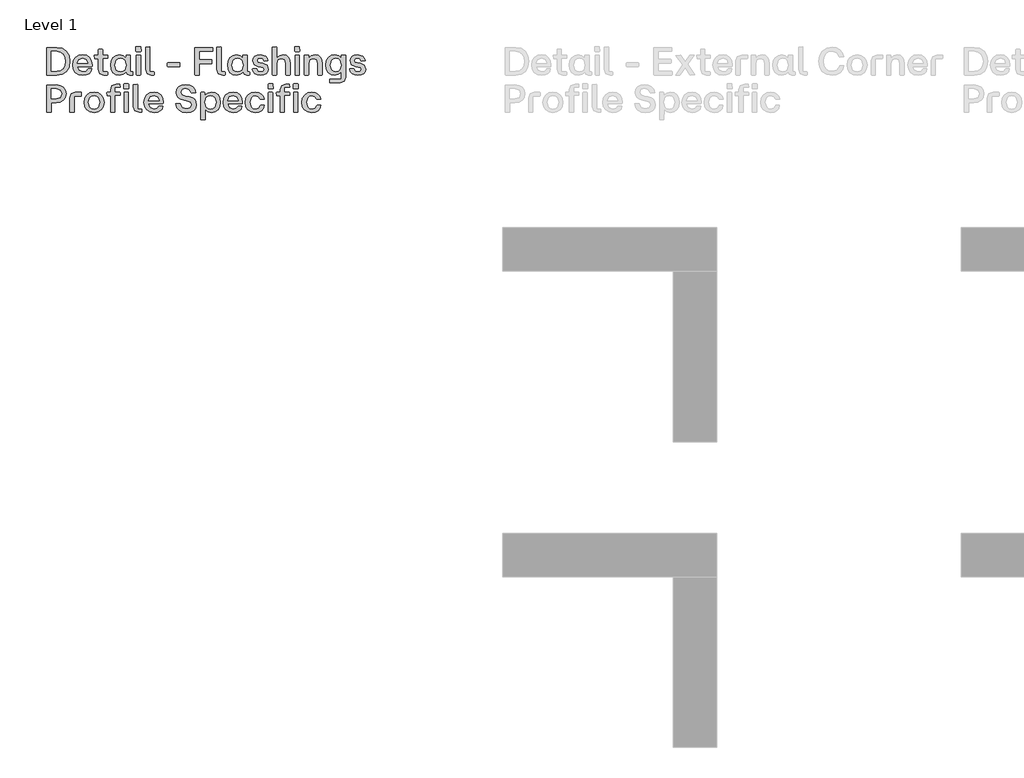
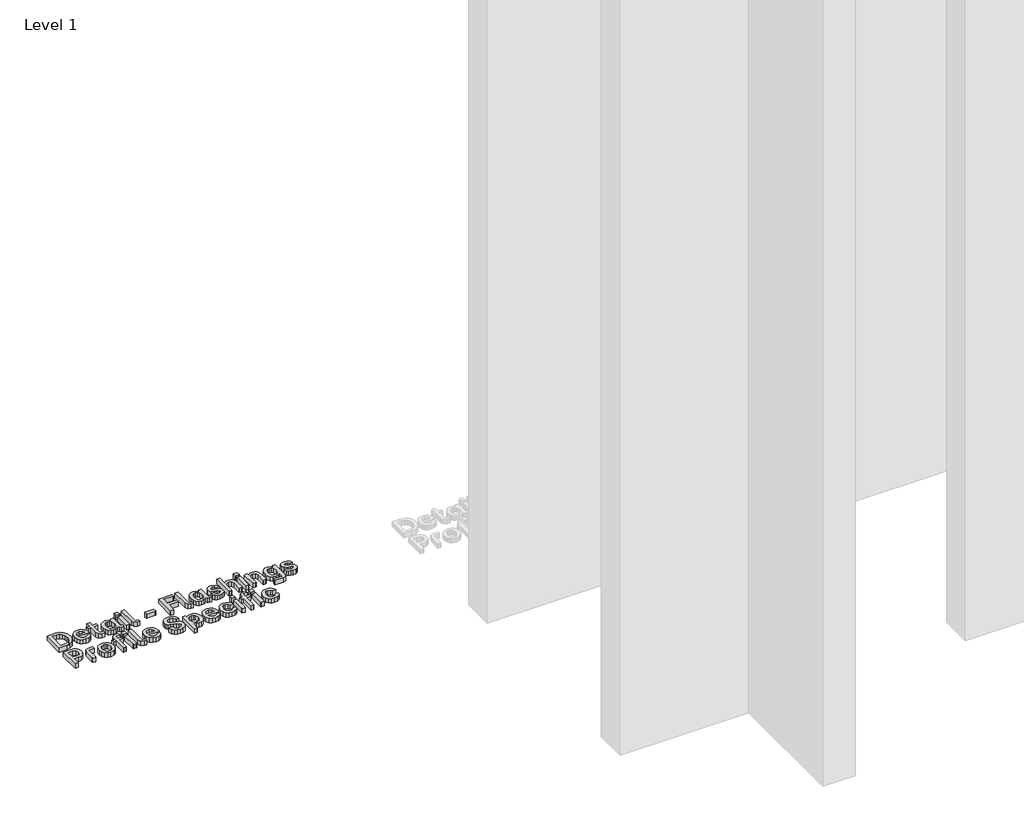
# One storey, part 56 of 64: 1 proxy.
"""IFC4 building model written with IfcOpenShell, lengths in millimetres."""

import ifcopenshell
import ifcopenshell.guid

model = None  # the IFC model being written
_history = None  # IfcOwnerHistory: only IFC2X3 demands one
_inside = {}  # id of a spatial element -> (the spatial element, [elements in it])
_under = {}  # id of a project, library or spatial element -> (it, [spatial elements below it])
_declared = {}  # id of a project -> (the project, [libraries it declares])
_typed = {}  # id of a type object -> (the type object, [elements of that type])
_made_of = {}  # id of a material, layer set ... -> (it, [elements and type objects made of it])


def new_model(schema):
    """Start an empty IFC model of exactly this schema.

    Asked for "IFC4X3", IfcOpenShell would pick the latest addendum, in which some entities
    have other attributes; the version numbers below select the first issue.
    IFC2X3 requires an IfcOwnerHistory on every rooted entity: one is made here for all.
    """
    global model, _history
    if schema == "IFC4X3":
        model = ifcopenshell.file(schema_version=(4, 3, 0, 0))
    else:
        model = ifcopenshell.file(schema=schema)
    _inside.clear()
    _under.clear()
    _declared.clear()
    _typed.clear()
    _made_of.clear()
    _history = None
    if model.schema == "IFC2X3":
        org = make("IfcOrganization", Name="unknown")
        user = make(
            "IfcPersonAndOrganization",
            ThePerson=make("IfcPerson", FamilyName="unknown"),
            TheOrganization=org,
        )
        app = make(
            "IfcApplication",
            ApplicationDeveloper=org,
            Version="unknown",
            ApplicationFullName="unknown",
            ApplicationIdentifier="unknown",
        )
        _history = make(
            "IfcOwnerHistory",
            OwningUser=user,
            OwningApplication=app,
            ChangeAction="ADDED",
            CreationDate=0,
        )
    return model


def make(cls, **values):
    """One entity of the class cls with the attributes given. An attribute that is None is left unset."""
    return model.create_entity(
        cls, **{name: value for name, value in values.items() if value is not None}
    )


def rooted(cls, **values):
    """An entity with a GlobalId (a new one), such as an element, a storey or a relation."""
    return make(cls, GlobalId=ifcopenshell.guid.new(), OwnerHistory=_history, **values)


def si_unit(unit_type, name, prefix=None):
    """IfcSIUnit, for example si_unit("LENGTHUNIT", "METRE", prefix="MILLI")."""
    return make("IfcSIUnit", UnitType=unit_type, Prefix=prefix, Name=name)


def assignment(units):
    """IfcUnitAssignment: the units of a project."""
    return None if units is None else make("IfcUnitAssignment", Units=units)


def point(xyz):
    """IfcCartesianPoint."""
    return None if xyz is None else make("IfcCartesianPoint", Coordinates=xyz)


def direction(xyz):
    """IfcDirection."""
    return None if xyz is None else make("IfcDirection", DirectionRatios=xyz)


def frame(location, z_axis=None, x_axis=None):
    """IfcAxis2Placement3D, a coordinate frame: its origin and axes. An axis left out is left unset."""
    return make(
        "IfcAxis2Placement3D",
        Location=point(location),
        Axis=direction(z_axis),
        RefDirection=direction(x_axis),
    )


def origin():
    """The frame at (0, 0, 0) with its axes left unset."""
    return frame((0.0, 0.0, 0.0))


def origin_with_axes():
    """The frame at (0, 0, 0) with the z axis (0, 0, 1) and the x axis (1, 0, 0) written out."""
    return frame((0.0, 0.0, 0.0), z_axis=(0.0, 0.0, 1.0), x_axis=(1.0, 0.0, 0.0))


def place(relative_to, where):
    """IfcLocalPlacement: puts the frame where relative to a parent placement (None: the world)."""
    return make(
        "IfcLocalPlacement", PlacementRelTo=relative_to, RelativePlacement=where
    )


def context(
    kind, dimensions, precision=None, world=None, true_north=None, identifier=None
):
    """IfcGeometricRepresentationContext, for example the 3D "Model" context."""
    return make(
        "IfcGeometricRepresentationContext",
        ContextIdentifier=identifier,
        ContextType=kind,
        CoordinateSpaceDimension=dimensions,
        Precision=precision,
        WorldCoordinateSystem=world,
        TrueNorth=true_north,
    )


def project(units=None, contexts=None):
    """IfcProject with its units and contexts."""
    return rooted(
        "IfcProject",
        Name="project",
        RepresentationContexts=contexts,
        UnitsInContext=assignment(units),
    )


def spatial(cls, under=None, at=None, **own):
    """A site, building, storey or space (cls), placed at a placement, below another one or the project."""
    s = rooted(cls, ObjectPlacement=at, **own)
    if under is not None:
        _under.setdefault(under.id(), (under, []))[1].append(s)
    return s


def polyline(points):
    """IfcPolyline through the points."""
    return make("IfcPolyline", Points=[point(p) for p in points])


def outline(outer, holes=None, kind="AREA"):
    """IfcArbitraryClosedProfileDef: a profile drawn as a closed curve; with holes, ...WithVoids."""
    if holes is None:
        return make("IfcArbitraryClosedProfileDef", ProfileType=kind, OuterCurve=outer)
    return make(
        "IfcArbitraryProfileDefWithVoids",
        ProfileType=kind,
        OuterCurve=outer,
        InnerCurves=holes,
    )


def extrude(swept, where, along, depth):
    """IfcExtrudedAreaSolid: the profile swept, set in the frame where, extruded along a direction by depth."""
    return make(
        "IfcExtrudedAreaSolid",
        SweptArea=swept,
        Position=where,
        ExtrudedDirection=direction(along),
        Depth=depth,
    )


def shape(context_of_items, identifier, shape_type, items):
    """IfcShapeRepresentation: the items that make up one representation, for example the "Body"."""
    return make(
        "IfcShapeRepresentation",
        ContextOfItems=context_of_items,
        RepresentationIdentifier=identifier,
        RepresentationType=shape_type,
        Items=items,
    )


def made_of(thing, what):
    """Note that an element or type object is made of a material, layer set ...; save() writes the relation."""
    if what is not None:
        _made_of.setdefault(what.id(), (what, []))[1].append(thing)
    return thing


def element(
    cls,
    number,
    at=None,
    inside=None,
    cuts=None,
    type_object=None,
    material=None,
    context=None,
    identifier="Body",
    shape_type=None,
    held_by="IfcProductDefinitionShape",
    body=None,
    shapes=None,
    **own,
):
    """One element of the class cls, such as IfcWall. Its Tag is "e" and its number.

    at: its placement. inside: the storey or other place that contains it. cuts: it is an
    opening in that element (IfcRelVoidsElement). A single representation is given by context,
    identifier, shape_type and body (its items); several are given by shapes. held_by: the class
    of the entity that holds the representations. save() writes the other relations.
    """
    e = rooted(cls, Tag="e%d" % number, ObjectPlacement=at, **own)
    if body is not None:
        shapes = [shape(context, identifier, shape_type, body)]
    if shapes is not None:
        e.Representation = make(held_by, Representations=shapes)
    if inside is not None:
        _inside.setdefault(inside.id(), (inside, []))[1].append(e)
    if cuts is not None:
        rooted(
            "IfcRelVoidsElement", RelatingBuildingElement=cuts, RelatedOpeningElement=e
        )
    if type_object is not None:
        _typed.setdefault(type_object.id(), (type_object, []))[1].append(e)
    return made_of(e, material)


def aggregate(whole, parts):
    """IfcRelAggregates: a whole, such as a stair, and the parts it consists of."""
    return rooted("IfcRelAggregates", RelatingObject=whole, RelatedObjects=parts)


def save(model, path):
    """Write the relations noted so far, then the file.

    IfcRelAggregates (storeys below a building ...), IfcRelContainedInSpatialStructure (elements
    in a storey), IfcRelDefinesByType, IfcRelAssociatesMaterial and IfcRelDeclares: one each for
    every whole, place, type object, material and project.
    """
    for whole, parts in _under.values():
        aggregate(whole, parts)
    for where, things in _inside.values():
        rooted(
            "IfcRelContainedInSpatialStructure",
            RelatedElements=things,
            RelatingStructure=where,
        )
    for kind, things in _typed.values():
        rooted("IfcRelDefinesByType", RelatedObjects=things, RelatingType=kind)
    for what, things in _made_of.values():
        rooted("IfcRelAssociatesMaterial", RelatedObjects=things, RelatingMaterial=what)
    for by, libraries in _declared.values():
        rooted("IfcRelDeclares", RelatingContext=by, RelatedDefinitions=libraries)
    model.write(path)


model = new_model("IFC4")

# Units and contexts
model_context = context("Model", 3, world=origin())
ifc_project = project(units=[si_unit("LENGTHUNIT", "METRE", prefix="MILLI")], contexts=[model_context])

# Site, building, storey
site = spatial("IfcSite", under=ifc_project)
building = spatial("IfcBuilding", under=site)
storey = spatial("IfcBuildingStorey", under=building, Name="Level 1", Elevation=0.0)

# Proxy
placement = place(None, origin())
element("IfcBuildingElementProxy", 1, Name="90mm", ObjectType="90mm", at=placement, inside=storey, context=model_context, shape_type="SweptSolid", body=[
    extrude(outline(polyline([(7610.2926176, 6000.0), (7608.9872124, 6001.2551973), (7608.9872124, 6088.6922388), (7642.5511873, 6089.997644), (7660.5475781, 6086.9945845), (7674.1193986, 6077.9854062), (7682.63905, 6063.6416394), (7685.4789338, 6044.6348148), (7682.648464, 6025.7974418), (7674.1570545, 6011.7109905), (7660.594648, 6002.9277476), (7642.5511873, 6000.0), (7610.2926176, 6000.0)]), holes=[polyline([(7623.7985402, 6012.6272845), (7641.6725492, 6012.6272845), (7653.8950326, 6014.688946), (7662.9481429, 6020.8739305), (7668.5494607, 6030.9374746), (7670.4165666, 6044.6348148), (7668.5431847, 6058.4890546), (7662.923039, 6068.8224661), (7653.8636527, 6075.2522141), (7641.6725492, 6077.3954634), (7623.7985402, 6077.3954634), (7623.7985402, 6012.6272845)])]), origin_with_axes(), (0.0, 0.0, 1.0), 20.0),
    extrude(outline(polyline([(7727.628458, 5999.2468816), (7714.0409476, 6001.5156507), (7703.5035666, 6008.3219579), (7696.7443293, 6018.9377888), (7694.4912502, 6032.6351289), (7696.7349153, 6046.4987827), (7703.4659107, 6057.2118914), (7713.9938777, 6064.0652685), (7727.628458, 6066.3497275), (7740.1584647, 6064.0966484), (7749.7324819, 6057.3374111), (7755.8044987, 6046.6870623), (7757.8285043, 6032.7606486), (7757.8285043, 6029.3214081), (7756.573307, 6027.990899), (7709.1268503, 6027.990899), (7714.6497183, 6015.3134066), (7727.628458, 6010.7946965), (7738.0465953, 6013.0917075), (7743.4439436, 6019.5308695), (7744.8246606, 6020.5852352), (7756.1967478, 6020.5852352), (7754.1633282, 6011.2685335), (7747.8120301, 6004.8074055), (7738.8248176, 6000.6370126), (7727.628458, 5999.2468816)]), holes=[polyline([(7709.2523701, 6038.4090363), (7743.8205028, 6038.4090363), (7739.0633051, 6050.3710663), (7727.628458, 6054.7266008), (7714.8631018, 6050.5844498), (7709.2523701, 6038.4090363)])]), origin_with_axes(), (0.0, 0.0, 1.0), 20.0),
    extrude(outline(polyline([(7796.6140998, 6000.0), (7782.731618, 6004.7697496), (7777.9618684, 6018.6522314), (7777.9618684, 6054.2245219), (7766.7906127, 6054.2245219), (7765.4852076, 6064.2661), (7766.7906127, 6065.5212973), (7777.9618684, 6065.5212973), (7777.9618684, 6083.54593), (7779.2170657, 6084.8513352), (7790.9657121, 6084.8513352), (7792.2209094, 6083.54593), (7792.2209094, 6065.5212973), (7808.0363949, 6065.5212973), (7809.3418001, 6064.2661), (7809.3418001, 6055.555031), (7792.2209094, 6054.2245219), (7792.2209094, 6011.2967754), (7808.0363949, 6011.2967754), (7809.3418001, 6010.0415781), (7809.3418001, 6001.2551973), (7808.0363949, 6000.0), (7796.6140998, 6000.0)])), origin_with_axes(), (0.0, 0.0, 1.0), 20.0),
    extrude(outline(polyline([(7847.2738615, 5999.2468816), (7835.3243835, 6001.5156507), (7826.0861316, 6008.3219579), (7820.1741525, 6018.9377888), (7818.2034928, 6032.6351289), (7820.1741525, 6046.4674028), (7826.0861316, 6057.1867875), (7835.3243835, 6064.0589925), (7847.2738615, 6066.3497275), (7859.1856835, 6063.4627738), (7868.160344, 6055.555031), (7868.7377347, 6064.2661), (7869.992932, 6065.5212973), (7881.6662665, 6065.5212973), (7882.9716717, 6064.2661), (7882.9716717, 6011.2967754), (7890.0760882, 6011.2967754), (7891.3312855, 6010.0415781), (7891.3312855, 6001.2551973), (7890.0760882, 6000.0), (7880.536589, 6000.0), (7872.1581473, 6002.3534949), (7869.3653333, 6009.4139795), (7859.7254183, 6002.1338354), (7847.2738615, 5999.2468816)]), holes=[polyline([(7832.7135732, 6032.6351289), (7837.6716024, 6016.6313638), (7843.5365116, 6012.2538633), (7851.2151809, 6010.7946965), (7858.7714684, 6012.2475873), (7864.470064, 6016.6062598), (7869.2398136, 6032.6351289), (7864.4324081, 6048.8271737), (7858.7243985, 6053.251744), (7851.2151809, 6054.7266008), (7843.5365116, 6053.251744), (7837.6716024, 6048.8271737), (7832.7135732, 6032.6351289)])]), origin_with_axes(), (0.0, 0.0, 1.0), 20.0),
    extrude(outline(polyline([(7903.6824266, 6000.0), (7902.3770214, 6001.2551973), (7902.3770214, 6064.2661), (7903.6824266, 6065.5212973), (7915.3557612, 6065.5212973), (7916.6109584, 6064.2661), (7916.6109584, 6001.2551973), (7915.3557612, 6000.0), (7903.6824266, 6000.0)])), origin_with_axes(), (0.0, 0.0, 1.0), 20.0),
    extrude(outline(polyline([(7901.3728636, 6078.1485818), (7901.3728636, 6092.0059596), (7902.6280609, 6093.3364687), (7916.4854387, 6093.3364687), (7917.8159478, 6078.1485818), (7916.4854387, 6076.8933845), (7902.6280609, 6076.8933845), (7901.3728636, 6078.1485818)])), origin_with_axes(), (0.0, 0.0, 1.0), 20.0),
    extrude(outline(polyline([(7951.5305464, 6000.0), (7937.6731686, 6004.7697496), (7932.903419, 6018.6522314), (7932.903419, 6091.2528413), (7945.8821587, 6092.5833504), (7947.137356, 6091.2528413), (7947.137356, 6011.2967754), (7959.1370418, 6011.2967754), (7960.3922391, 6010.0415781), (7960.3922391, 6001.2551973), (7959.1370418, 6000.0), (7951.5305464, 6000.0)])), origin_with_axes(), (0.0, 0.0, 1.0), 20.0),
    extrude(outline(polyline([(8005.1776775, 6027.112261), (8003.9224803, 6028.4427701), (8003.9224803, 6038.4090363), (8005.1776775, 6039.7395454), (8043.7875455, 6039.7395454), (8045.0427427, 6038.4090363), (8045.0427427, 6028.4427701), (8043.7875455, 6027.112261), (8005.1776775, 6027.112261)])), origin_with_axes(), (0.0, 0.0, 1.0), 20.0),
    extrude(outline(polyline([(8095.5016728, 6000.0), (8094.1962677, 6001.2551973), (8094.1962677, 6088.6922388), (8151.0567038, 6089.997644), (8152.3119011, 6088.6922388), (8152.3119011, 6078.6506607), (8151.0567038, 6077.3954634), (8109.0075954, 6077.3954634), (8109.0075954, 6050.2832025), (8148.4709975, 6050.2832025), (8149.7261947, 6048.9526934), (8149.7261947, 6038.9864271), (8148.4709975, 6037.655918), (8109.0075954, 6037.655918), (8109.0075954, 6001.2551973), (8107.6770863, 6000.0), (8095.5016728, 6000.0)])), origin_with_axes(), (0.0, 0.0, 1.0), 20.0),
    extrude(outline(polyline([(8184.495159, 6000.0), (8170.6377812, 6004.7697496), (8165.8680316, 6018.6522314), (8165.8680316, 6091.2528413), (8178.8467713, 6092.5833504), (8180.1019686, 6091.2528413), (8180.1019686, 6011.2967754), (8192.1016544, 6011.2967754), (8193.3568517, 6010.0415781), (8193.3568517, 6001.2551973), (8192.1016544, 6000.0), (8184.495159, 6000.0)])), origin_with_axes(), (0.0, 0.0, 1.0), 20.0),
    extrude(outline(polyline([(8229.6571566, 5999.2468816), (8217.7076787, 6001.5156507), (8208.4694268, 6008.3219579), (8202.5574477, 6018.9377888), (8200.586788, 6032.6351289), (8202.5574477, 6046.4674028), (8208.4694268, 6057.1867875), (8217.7076787, 6064.0589925), (8229.6571566, 6066.3497275), (8241.5689787, 6063.4627738), (8250.5436392, 6055.555031), (8251.1210299, 6064.2661), (8252.3762272, 6065.5212973), (8264.0495617, 6065.5212973), (8265.3549669, 6064.2661), (8265.3549669, 6011.2967754), (8272.4593834, 6011.2967754), (8273.7145807, 6010.0415781), (8273.7145807, 6001.2551973), (8272.4593834, 6000.0), (8262.9198842, 6000.0), (8254.5414425, 6002.3534949), (8251.7486285, 6009.4139795), (8242.1087135, 6002.1338354), (8229.6571566, 5999.2468816)]), holes=[polyline([(8215.0968684, 6032.6351289), (8220.0548976, 6016.6313638), (8225.9198068, 6012.2538633), (8233.5984761, 6010.7946965), (8241.1547636, 6012.2475873), (8246.8533592, 6016.6062598), (8251.6231088, 6032.6351289), (8246.8157033, 6048.8271737), (8241.1076937, 6053.251744), (8233.5984761, 6054.7266008), (8225.9198068, 6053.251744), (8220.0548976, 6048.8271737), (8215.0968684, 6032.6351289)])]), origin_with_axes(), (0.0, 0.0, 1.0), 20.0),
    extrude(outline(polyline([(8309.0358318, 5999.2468816), (8298.0936496, 6000.5742527), (8289.7183458, 6004.5563661), (8284.1609599, 6011.017494), (8281.6725314, 6019.7819089), (8282.8022089, 6021.2128338), (8294.1742961, 6021.2128338), (8295.4294934, 6020.0329484), (8299.7222681, 6012.5519727), (8309.0358318, 6010.2926176), (8317.0690943, 6012.4264529), (8320.0815677, 6018.1501525), (8317.9226284, 6023.2964613), (8310.6173803, 6025.9825834), (8301.4544403, 6027.6143399), (8287.5468546, 6033.990742), (8283.0532484, 6046.7686501), (8284.7006948, 6054.7862227), (8289.643034, 6061.0151391), (8297.3781872, 6065.0160804), (8307.4040753, 6066.3497275), (8324.8513173, 6061.3916983), (8330.0164541, 6055.3949934), (8332.4578128, 6047.3209369), (8319.956048, 6045.8900121), (8318.575331, 6047.0698975), (8315.0105708, 6053.3835397), (8307.4040753, 6055.3039916), (8299.747372, 6053.3207799), (8297.1114577, 6047.5719764), (8298.9942536, 6042.5888432), (8305.8476307, 6039.8650652), (8315.6381694, 6038.0324772), (8330.060386, 6031.7564908), (8334.1397771, 6018.9032708), (8332.5080206, 6010.5154151), (8327.6127513, 6004.3304306), (8319.7050085, 6000.5177689), (8309.0358318, 5999.2468816)])), origin_with_axes(), (0.0, 0.0, 1.0), 20.0),
    extrude(outline(polyline([(8348.7251693, 6000.0), (8347.4197642, 6001.2551973), (8347.4197642, 6091.2528413), (8360.3985039, 6092.5833504), (8361.6537012, 6091.2528413), (8361.6537012, 6056.0571099), (8370.8103652, 6063.7765731), (8382.2389363, 6066.3497275), (8392.1644087, 6064.4669316), (8399.4476909, 6058.8185439), (8403.9193311, 6049.5426361), (8405.4098779, 6036.7772799), (8405.4098779, 6001.2551973), (8404.0793688, 6000.0), (8392.4060342, 6000.0), (8391.100629, 6001.2551973), (8391.100629, 6036.7772799), (8387.5860767, 6050.057267), (8376.4775809, 6054.2245219), (8365.2686693, 6049.9945071), (8361.6537012, 6036.7772799), (8361.6537012, 6001.2551973), (8360.3985039, 6000.0), (8348.7251693, 6000.0)])), origin_with_axes(), (0.0, 0.0, 1.0), 20.0),
    extrude(outline(polyline([(8422.6311844, 6000.0), (8421.3257792, 6001.2551973), (8421.3257792, 6064.2661), (8422.6311844, 6065.5212973), (8434.3045189, 6065.5212973), (8435.5597162, 6064.2661), (8435.5597162, 6001.2551973), (8434.3045189, 6000.0), (8422.6311844, 6000.0)])), origin_with_axes(), (0.0, 0.0, 1.0), 20.0),
    extrude(outline(polyline([(8420.3216214, 6078.1485818), (8420.3216214, 6092.0059596), (8421.5768187, 6093.3364687), (8435.4341965, 6093.3364687), (8436.7647056, 6078.1485818), (8435.4341965, 6076.8933845), (8421.5768187, 6076.8933845), (8420.3216214, 6078.1485818)])), origin_with_axes(), (0.0, 0.0, 1.0), 20.0),
    extrude(outline(polyline([(8453.1575819, 6000.0), (8451.8521767, 6001.2551973), (8451.8521767, 6064.2661), (8453.1575819, 6065.5212973), (8464.2033178, 6065.5212973), (8465.4585151, 6064.2661), (8465.4585151, 6055.555031), (8474.7532508, 6063.6510534), (8486.6713489, 6066.3497275), (8496.5968213, 6064.4669316), (8503.8801034, 6058.8185439), (8508.3517437, 6049.5426361), (8509.8422904, 6036.7772799), (8509.8422904, 6001.2551973), (8508.5117813, 6000.0), (8496.8384467, 6000.0), (8495.5330416, 6001.2551973), (8495.5330416, 6036.7772799), (8492.0184892, 6050.057267), (8480.9099934, 6054.2245219), (8469.7010818, 6049.9945071), (8466.0861137, 6036.7772799), (8466.0861137, 6001.2551973), (8464.8309165, 6000.0), (8453.1575819, 6000.0)])), origin_with_axes(), (0.0, 0.0, 1.0), 20.0),
    extrude(outline(polyline([(8535.5487304, 5975.5989651), (8534.2182213, 5976.8541624), (8534.2182213, 5985.6405433), (8535.5487304, 5986.8957405), (8572.4515301, 5986.8957405), (8572.4515301, 6010.0415781), (8562.8994789, 6002.1338354), (8550.9876568, 5999.2468816), (8539.0381788, 6001.5313407), (8529.799927, 6008.3847177), (8523.8879478, 6019.0789984), (8521.9172881, 6032.8861684), (8523.8879478, 6046.6086125), (8529.799927, 6057.2495473), (8539.0381788, 6064.0746824), (8550.9876568, 6066.3497275), (8563.4392137, 6063.4627738), (8572.5770498, 6055.6805507), (8573.0791287, 6064.2661), (8574.334326, 6065.5212973), (8585.3800619, 6065.5212973), (8586.6854671, 6064.2661), (8586.6854671, 5993.5984939), (8582.0412372, 5980.2055391), (8568.6859383, 5975.5989651), (8535.5487304, 5975.5989651)]), holes=[polyline([(8536.4273685, 6032.8861684), (8541.3853977, 6016.6941236), (8547.250307, 6012.2695533), (8554.9289762, 6010.7946965), (8562.4381939, 6012.2695533), (8568.1462034, 6016.6941236), (8572.953609, 6032.8861684), (8568.1838594, 6048.9275894), (8562.4852638, 6053.276848), (8554.9289762, 6054.7266008), (8547.250307, 6053.267434), (8541.3853977, 6048.8899335), (8536.4273685, 6032.8861684)])]), origin_with_axes(), (0.0, 0.0, 1.0), 20.0),
    extrude(outline(polyline([(8627.1530269, 5999.2468816), (8616.2108448, 6000.5742527), (8607.835541, 6004.5563661), (8602.2781551, 6011.017494), (8599.7897265, 6019.7819089), (8600.9194041, 6021.2128338), (8612.2914913, 6021.2128338), (8613.5466886, 6020.0329484), (8617.8394632, 6012.5519727), (8627.1530269, 6010.2926176), (8635.1862894, 6012.4264529), (8638.1987629, 6018.1501525), (8636.0398236, 6023.2964613), (8628.7345755, 6025.9825834), (8619.5716354, 6027.6143399), (8605.6640497, 6033.990742), (8601.1704435, 6046.7686501), (8602.8178899, 6054.7862227), (8607.7602292, 6061.0151391), (8615.4953823, 6065.0160804), (8625.5212705, 6066.3497275), (8642.9685125, 6061.3916983), (8648.1336492, 6055.3949934), (8650.5750079, 6047.3209369), (8638.0732431, 6045.8900121), (8636.6925262, 6047.0698975), (8633.1277659, 6053.3835397), (8625.5212705, 6055.3039916), (8617.8645672, 6053.3207799), (8615.2286529, 6047.5719764), (8617.1114488, 6042.5888432), (8623.9648259, 6039.8650652), (8633.7553645, 6038.0324772), (8648.1775811, 6031.7564908), (8652.2569723, 6018.9032708), (8650.6252158, 6010.5154151), (8645.7299465, 6004.3304306), (8637.8222037, 6000.5177689), (8627.1530269, 5999.2468816)])), origin_with_axes(), (0.0, 0.0, 1.0), 20.0),
    extrude(outline(polyline([(7610.2926176, 5877.86695), (7608.9872124, 5879.1221472), (7608.9872124, 5966.5591888), (7640.1161046, 5967.864594), (7654.0174144, 5965.9661081), (7664.3414119, 5960.2706505), (7670.7429179, 5951.0763305), (7672.8767533, 5938.6812575), (7670.7429179, 5926.2861845), (7664.3414119, 5917.0918646), (7654.0174144, 5911.396407), (7640.1161046, 5909.4979211), (7623.7985402, 5909.4979211), (7623.7985402, 5879.1221472), (7622.4680311, 5877.86695), (7610.2926176, 5877.86695)]), holes=[polyline([(7623.7985402, 5922.1252056), (7640.1161046, 5922.1252056), (7653.5969233, 5926.2045967), (7657.9901137, 5938.6938095), (7653.5969233, 5951.1830223), (7640.1161046, 5955.2624134), (7623.7985402, 5955.2624134), (7623.7985402, 5922.1252056)])]), origin_with_axes(), (0.0, 0.0, 1.0), 20.0),
    extrude(outline(polyline([(7686.1065325, 5877.86695), (7684.8513352, 5879.1221472), (7684.8513352, 5924.8113277), (7689.6210848, 5938.6561536), (7703.4784626, 5943.3882473), (7721.7541348, 5943.3882473), (7723.0093321, 5942.13305), (7723.0093321, 5932.5935508), (7721.7541348, 5931.3383535), (7699.0852722, 5931.3383535), (7699.0852722, 5879.1221472), (7697.8300749, 5877.86695), (7686.1065325, 5877.86695)])), origin_with_axes(), (0.0, 0.0, 1.0), 20.0),
    extrude(outline(polyline([(7764.2049064, 5877.1138316), (7750.9782652, 5879.4202566), (7740.519334, 5886.3395315), (7733.7130268, 5896.9930183), (7731.4442577, 5910.5020789), (7733.7193028, 5924.0990033), (7740.5444379, 5934.8654578), (7751.0096451, 5941.8788726), (7764.2049064, 5944.2166775), (7777.5570673, 5941.8788726), (7788.0913103, 5934.8654578), (7794.9352734, 5924.0990033), (7797.2165945, 5910.5020789), (7794.9352734, 5896.9930183), (7788.0913103, 5886.3395315), (7777.5570673, 5879.4202566), (7764.2049064, 5877.1138316)]), holes=[polyline([(7745.9543381, 5910.5020789), (7750.8119515, 5894.4732098), (7756.588997, 5890.1145373), (7764.2049064, 5888.6616465), (7771.9024036, 5890.1208133), (7777.7735888, 5894.4983138), (7782.731618, 5910.5020789), (7777.7986928, 5926.6941236), (7771.9337835, 5931.118694), (7764.2049064, 5932.5935508), (7756.588997, 5931.118694), (7750.8119515, 5926.6941236), (7745.9543381, 5910.5020789)])]), origin_with_axes(), (0.0, 0.0, 1.0), 20.0),
    extrude(outline(polyline([(7819.3833782, 5877.86695), (7818.1281809, 5879.1221472), (7818.1281809, 5932.0914719), (7806.9569253, 5932.0914719), (7805.6515201, 5942.13305), (7806.9569253, 5943.3882473), (7818.1281809, 5943.3882473), (7818.1281809, 5951.798069), (7822.8979305, 5965.6805507), (7836.7804123, 5970.4503003), (7848.2027074, 5970.4503003), (7849.5081126, 5960.4087222), (7832.3872219, 5959.0782131), (7832.3872219, 5943.3882473), (7848.2027074, 5943.3882473), (7849.5081126, 5942.13305), (7849.5081126, 5933.421981), (7832.3872219, 5932.0914719), (7832.3872219, 5879.1221472), (7831.1320246, 5877.86695), (7819.3833782, 5877.86695)])), origin_with_axes(), (0.0, 0.0, 1.0), 20.0),
    extrude(outline(polyline([(7861.3069669, 5956.0155318), (7861.3069669, 5969.8729096), (7862.5621642, 5971.2034187), (7876.4948538, 5971.2034187), (7877.7500511, 5969.8729096), (7877.7500511, 5956.0155318), (7876.4948538, 5954.7603345), (7862.5621642, 5954.7603345), (7861.3069669, 5956.0155318)])), origin_with_axes(), (0.0, 0.0, 1.0), 20.0),
    extrude(outline(polyline([(7862.3111247, 5879.1221472), (7862.3111247, 5942.13305), (7863.6416338, 5943.3882473), (7875.3149684, 5943.3882473), (7876.6203735, 5942.13305), (7876.6203735, 5879.1221472), (7875.3149684, 5877.86695), (7863.6416338, 5877.86695), (7862.3111247, 5879.1221472)])), origin_with_axes(), (0.0, 0.0, 1.0), 20.0),
    extrude(outline(polyline([(7911.3642339, 5877.86695), (7897.506856, 5882.6366996), (7892.7371064, 5896.5191814), (7892.7371064, 5969.1197912), (7905.7158462, 5970.4503003), (7906.9710434, 5969.1197912), (7906.9710434, 5889.1637254), (7918.9707293, 5889.1637254), (7920.2259266, 5887.9085281), (7920.2259266, 5879.1221472), (7918.9707293, 5877.86695), (7911.3642339, 5877.86695)])), origin_with_axes(), (0.0, 0.0, 1.0), 20.0),
    extrude(outline(polyline([(7960.5930707, 5877.1138316), (7947.0055602, 5879.3826007), (7936.4681792, 5886.1889079), (7929.7089419, 5896.8047387), (7927.4558628, 5910.5020789), (7929.6995279, 5924.3657327), (7936.4305233, 5935.0788414), (7946.9584903, 5941.9322185), (7960.5930707, 5944.2166775), (7973.1230774, 5941.9635984), (7982.6970945, 5935.2043611), (7988.7691113, 5924.5540123), (7990.7931169, 5910.6275986), (7990.7931169, 5907.1883581), (7989.5379196, 5905.857849), (7942.0914629, 5905.857849), (7947.6143309, 5893.1803566), (7960.5930707, 5888.6616465), (7971.011208, 5890.9586575), (7976.4085562, 5897.3978194), (7977.7892732, 5898.4521852), (7989.1613604, 5898.4521852), (7987.1279409, 5889.1354834), (7980.7766427, 5882.6743555), (7971.7894303, 5878.5039626), (7960.5930707, 5877.1138316)]), holes=[polyline([(7942.2169827, 5916.2759863), (7976.7851154, 5916.2759863), (7972.0279177, 5928.2380163), (7960.5930707, 5932.5935508), (7947.8277145, 5928.4513998), (7942.2169827, 5916.2759863)])]), origin_with_axes(), (0.0, 0.0, 1.0), 20.0),
    extrude(outline(polyline([(8066.8831752, 5877.1138316), (8053.1136611, 5878.9652476), (8042.4319324, 5884.5194955), (8035.1706162, 5893.4941559), (8031.6623399, 5905.6068096), (8044.917223, 5907.0628384), (8046.2226282, 5905.857849), (8052.4107507, 5893.3058764), (8066.8831752, 5889.4147648), (8079.3974919, 5892.992077), (8083.8785461, 5902.9206874), (8080.7782089, 5911.1673335), (8070.3977275, 5915.2718285), (8058.5235614, 5917.355456), (8047.5186193, 5920.6095549), (8039.6579465, 5925.9284533), (8034.9415427, 5933.3121512), (8033.3694082, 5942.7606486), (8035.3839998, 5953.602415), (8041.4277746, 5961.7768872), (8051.0802416, 5966.9075061), (8063.9209096, 5968.6177123), (8076.6548859, 5966.8855401), (8086.5897722, 5961.6890234), (8093.3803895, 5953.3356856), (8096.6815583, 5942.13305), (8083.501987, 5940.7021251), (8082.0710621, 5942.13305), (8076.2594987, 5952.8398827), (8063.9209096, 5956.2665712), (8052.1597112, 5953.1285781), (8048.1054241, 5943.965638), (8051.7203922, 5935.267121), (8063.0422715, 5930.7107549), (8074.8411258, 5928.6522314), (8085.6609263, 5925.4828583), (8093.0163822, 5920.3930334), (8097.2338451, 5913.0626813), (8098.639666, 5903.1717269), (8096.5277966, 5892.2577866), (8090.1921884, 5884.0174166), (8080.1411963, 5878.8397279), (8066.8831752, 5877.1138316)])), origin_with_axes(), (0.0, 0.0, 1.0), 20.0),
    extrude(outline(polyline([(8114.1539042, 5853.4659151), (8112.848499, 5854.7211124), (8112.848499, 5942.13305), (8114.1539042, 5943.3882473), (8125.1996401, 5943.3882473), (8126.4548374, 5942.13305), (8126.4548374, 5933.5475007), (8136.0947524, 5941.3297238), (8148.5463093, 5944.2166775), (8160.4957873, 5941.9416324), (8169.7340392, 5935.1164973), (8175.6460183, 5924.4755625), (8177.616678, 5910.7531184), (8175.6460183, 5896.9459484), (8169.7340392, 5886.2516677), (8160.4957873, 5879.3982906), (8148.5463093, 5877.1138316), (8136.6344872, 5880.0007853), (8127.6598268, 5887.9085281), (8127.082436, 5854.7211124), (8125.8272388, 5853.4659151), (8114.1539042, 5853.4659151)]), holes=[polyline([(8126.5803571, 5910.7531184), (8131.3877627, 5894.5610736), (8137.0957722, 5890.1365033), (8144.6049899, 5888.6616465), (8152.2836592, 5890.1365033), (8158.1485684, 5894.5610736), (8163.1065976, 5910.7531184), (8158.1485684, 5926.7568835), (8152.2836592, 5931.134384), (8144.6049899, 5932.5935508), (8137.0487023, 5931.143798), (8131.3501068, 5926.7945394), (8126.5803571, 5910.7531184)])]), origin_with_axes(), (0.0, 0.0, 1.0), 20.0),
    extrude(outline(polyline([(8219.2641233, 5877.1138316), (8205.6766129, 5879.3826007), (8195.1392318, 5886.1889079), (8188.3799945, 5896.8047387), (8186.1269155, 5910.5020789), (8188.3705806, 5924.3657327), (8195.1015759, 5935.0788414), (8205.629543, 5941.9322185), (8219.2641233, 5944.2166775), (8231.79413, 5941.9635984), (8241.3681471, 5935.2043611), (8247.4401639, 5924.5540123), (8249.4641695, 5910.6275986), (8249.4641695, 5907.1883581), (8248.2089722, 5905.857849), (8200.7625156, 5905.857849), (8206.2853836, 5893.1803566), (8219.2641233, 5888.6616465), (8229.6822606, 5890.9586575), (8235.0796088, 5897.3978194), (8236.4603258, 5898.4521852), (8247.8324131, 5898.4521852), (8245.7989935, 5889.1354834), (8239.4476953, 5882.6743555), (8230.4604829, 5878.5039626), (8219.2641233, 5877.1138316)]), holes=[polyline([(8200.8880353, 5916.2759863), (8235.456168, 5916.2759863), (8230.6989704, 5928.2380163), (8219.2641233, 5932.5935508), (8206.4987671, 5928.4513998), (8200.8880353, 5916.2759863)])]), origin_with_axes(), (0.0, 0.0, 1.0), 20.0),
    extrude(outline(polyline([(8291.4379661, 5877.1138316), (8277.9445955, 5879.3826007), (8267.4385944, 5886.1889079), (8260.6793571, 5896.8047387), (8258.426278, 5910.5020789), (8260.710737, 5924.0990033), (8267.5641141, 5934.8654578), (8278.1014951, 5941.8788726), (8291.4379661, 5944.2166775), (8302.4209422, 5942.6696468), (8311.3704987, 5938.028555), (8317.6841409, 5930.8456886), (8320.7593742, 5921.6733346), (8308.1320897, 5920.2926176), (8301.7054797, 5929.8321168), (8291.4379661, 5932.5935508), (8283.680847, 5931.118694), (8277.8316277, 5926.6941236), (8272.9363584, 5910.5020789), (8277.8567317, 5894.4355539), (8283.7122269, 5890.1051233), (8291.4379661, 5888.6616465), (8302.019279, 5891.2975607), (8307.3789714, 5899.8329021), (8308.7596884, 5901.0378915), (8320.1317756, 5901.0378915), (8318.12346, 5890.5287524), (8311.7470579, 5883.3019541), (8302.7033616, 5878.6608623), (8291.4379661, 5877.1138316)])), origin_with_axes(), (0.0, 0.0, 1.0), 20.0),
    extrude(outline(polyline([(8335.8719493, 5877.86695), (8334.5665442, 5879.1221472), (8334.5665442, 5942.13305), (8335.8719493, 5943.3882473), (8347.5452839, 5943.3882473), (8348.8004812, 5942.13305), (8348.8004812, 5879.1221472), (8347.5452839, 5877.86695), (8335.8719493, 5877.86695)])), origin_with_axes(), (0.0, 0.0, 1.0), 20.0),
    extrude(outline(polyline([(8333.5623863, 5956.0155318), (8333.5623863, 5969.8729096), (8334.8175836, 5971.2034187), (8348.6749614, 5971.2034187), (8350.0054705, 5956.0155318), (8348.6749614, 5954.7603345), (8334.8175836, 5954.7603345), (8333.5623863, 5956.0155318)])), origin_with_axes(), (0.0, 0.0, 1.0), 20.0),
    extrude(outline(polyline([(8373.678491, 5877.86695), (8372.4232937, 5879.1221472), (8372.4232937, 5932.0914719), (8361.252038, 5932.0914719), (8359.9466329, 5942.13305), (8361.252038, 5943.3882473), (8372.4232937, 5943.3882473), (8372.4232937, 5951.798069), (8377.1930433, 5965.6805507), (8391.0755251, 5970.4503003), (8402.4978202, 5970.4503003), (8403.8032254, 5960.4087222), (8386.6823347, 5959.0782131), (8386.6823347, 5943.3882473), (8402.4978202, 5943.3882473), (8403.8032254, 5942.13305), (8403.8032254, 5933.421981), (8386.6823347, 5932.0914719), (8386.6823347, 5879.1221472), (8385.4271374, 5877.86695), (8373.678491, 5877.86695)])), origin_with_axes(), (0.0, 0.0, 1.0), 20.0),
    extrude(outline(polyline([(8415.6020797, 5956.0155318), (8415.6020797, 5969.8729096), (8416.8572769, 5971.2034187), (8430.7899666, 5971.2034187), (8432.0451639, 5969.8729096), (8432.0451639, 5956.0155318), (8430.7899666, 5954.7603345), (8416.8572769, 5954.7603345), (8415.6020797, 5956.0155318)])), origin_with_axes(), (0.0, 0.0, 1.0), 20.0),
    extrude(outline(polyline([(8416.6062375, 5879.1221472), (8416.6062375, 5942.13305), (8417.9367466, 5943.3882473), (8429.6100812, 5943.3882473), (8430.9154863, 5942.13305), (8430.9154863, 5879.1221472), (8429.6100812, 5877.86695), (8417.9367466, 5877.86695), (8416.6062375, 5879.1221472)])), origin_with_axes(), (0.0, 0.0, 1.0), 20.0),
    extrude(outline(polyline([(8476.2030037, 5877.1138316), (8462.7096331, 5879.3826007), (8452.203632, 5886.1889079), (8445.4443947, 5896.8047387), (8443.1913156, 5910.5020789), (8445.4757746, 5924.0990033), (8452.3291517, 5934.8654578), (8462.8665327, 5941.8788726), (8476.2030037, 5944.2166775), (8487.1859798, 5942.6696468), (8496.1355363, 5938.028555), (8502.4491785, 5930.8456886), (8505.5244118, 5921.6733346), (8492.8971273, 5920.2926176), (8486.4705173, 5929.8321168), (8476.2030037, 5932.5935508), (8468.4458846, 5931.118694), (8462.5966653, 5926.6941236), (8457.701396, 5910.5020789), (8462.6217693, 5894.4355539), (8468.4772645, 5890.1051233), (8476.2030037, 5888.6616465), (8486.7843166, 5891.2975607), (8492.144009, 5899.8329021), (8493.524726, 5901.0378915), (8504.8968132, 5901.0378915), (8502.8884976, 5890.5287524), (8496.5120955, 5883.3019541), (8487.4683992, 5878.6608623), (8476.2030037, 5877.1138316)])), origin_with_axes(), (0.0, 0.0, 1.0), 20.0),
])

save(model, "model.ifc")
